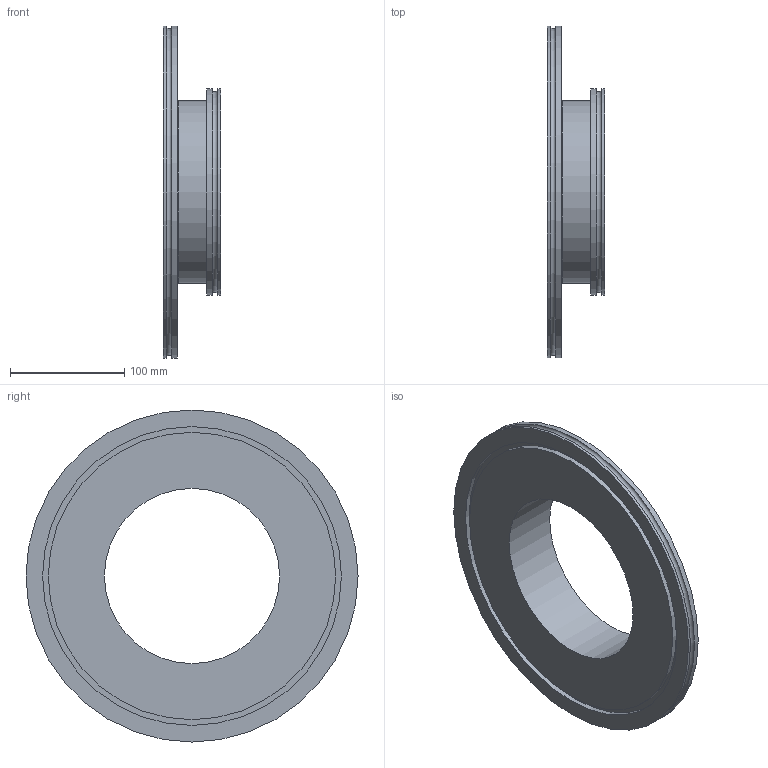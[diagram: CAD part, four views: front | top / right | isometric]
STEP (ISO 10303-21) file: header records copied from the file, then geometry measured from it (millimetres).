
FILE_DESCRIPTION((''),'2;1');
FILE_NAME('W:\M212-169.stp','2010-06-25T15:01:43',('KAA'),(''),'Autodesk Inventor 2009','Autodesk Inventor 2009','');
FILE_SCHEMA(('AUTOMOTIVE_DESIGN { 1 0 10303 214 1 1 1 1 }'));
Length unit declared in the file: millimetre
Products named in the file (1): 212-169
Bounding box: 50 x 290 x 290 mm (x, y, z)
Volume: 651082.6 mm3; surface area: 177335.6 mm2
Topology: 1 solids, 1 shells, 24 faces, 43 edges, 28 vertices
Faces by surface type: cylinder 11, plane 9, bspline 2, torus 2
Full cylindrical faces by diameter (mm): 153 x1, 160 x1, 176 x1, 180 x2, 251 x1, 261 x1, 275 x1, 286 x1, 290 x2
Entity records: 594 total; most frequent: CARTESIAN_POINT 161, DIRECTION 94, ORIENTED_EDGE 48, EDGE_LOOP 48, AXIS2_PLACEMENT_3D 47, VERTEX_POINT 24, CIRCLE 24, EDGE_CURVE 24
